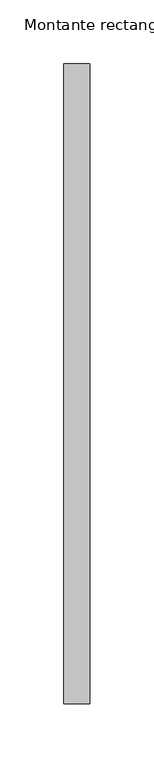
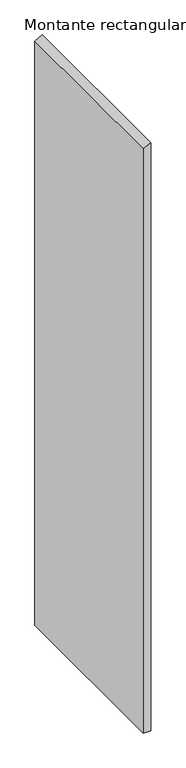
"""IFC4 building model written with IfcOpenShell, lengths in millimetres: member geometry, Montante rectangular : CIRCLES."""

from ifc_helpers import new_model, si_unit, frame, origin, place, context, project, spatial, polyline, outline, extrude, source, transform, mapped, element, save


def montante_rectangular_47f0ccf8(model_context):
    return source(origin(), model_context, "Body", "SweptSolid", [
        extrude(outline(polyline([(0.0, 0.0), (-10.6772202, -20.0), (-1656.6819037, -20.0), (-1656.6819037, 0.0), (0.0, 0.0)])), frame((0.0, -250.0, 0.0), z_axis=(0.0, 1.0, 0.0), x_axis=(0.0, 0.0, 1.0)), (0.0, 0.0, 1.0), 500.0),
    ])


if __name__ == "__main__":
    model = new_model("IFC4")
    model_context = context("Model", 3, world=origin())
    ifc_project = project(units=[si_unit("LENGTHUNIT", "METRE", prefix="MILLI")], contexts=[model_context])
    site = spatial("IfcSite", under=ifc_project)
    building = spatial("IfcBuilding", under=site)
    placement = place(None, origin())
    montante_rectangular_shape = montante_rectangular_47f0ccf8(model_context)
    element("IfcMember", 1, ObjectType="Montante rectangular : CIRCLES", at=placement, inside=building, context=model_context, shape_type="MappedRepresentation", body=[
        mapped(montante_rectangular_shape, transform((0.0, 0.0, 0.0), x_axis=(1.0, 0.0, 0.0), y_axis=(0.0, 1.0, 0.0), z_axis=(0.0, 0.0, 1.0))),
    ])
    save(model, "model.ifc")
